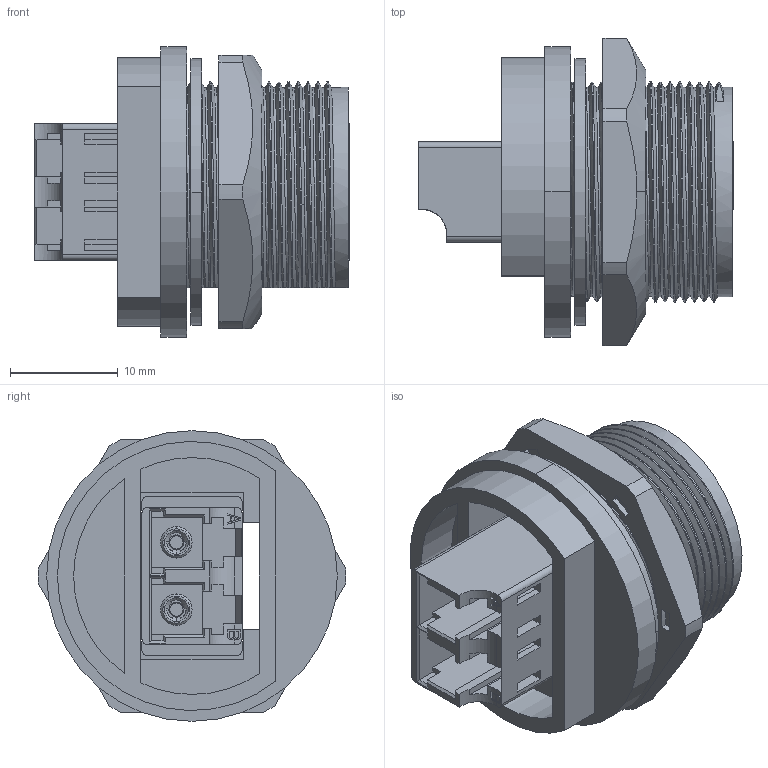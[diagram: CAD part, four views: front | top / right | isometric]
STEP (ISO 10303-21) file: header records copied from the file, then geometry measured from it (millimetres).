
FILE_DESCRIPTION(/* description */ (''),/* implementation_level */ '2;1');
FILE_NAME(/* name */ 'E13FDDI-TF-LC.stp',/* time_stamp */ '2023-03-29T11:25:06+08:00',/* author */ (''),/* organization */ (''),/* preprocessor_version */ 'ST-DEVELOPER v16.7',/* originating_system */ 'SIEMENS PLM Software NX 1847',/* authorisation */ '');
FILE_SCHEMA (('AUTOMOTIVE_DESIGN { 1 0 10303 214 3 1 1 1 }'));
Length unit declared in the file: millimetre
Products named in the file (5): E13 塑胶六角螺母; E13 座子防水垫片 ∅24.8X∅2
0.6-1; 光纤端子插头; E13光纤螺纹式板后座子; E13GX-TF-LC
Assembly tree (4 placements, depth 2):
  E13GX-TF-LC
    E13光纤螺纹式板后座子
    光纤端子插头
    E13 座子防水垫片 ∅24.8X∅2
0.6-1
    E13 塑胶六角螺母
Bounding box: 29.2 x 28.6 x 27 mm (x, y, z)
Volume: 6393.8 mm3; surface area: 8915.7 mm2
Topology: 4 solids, 6 shells, 804 faces, 2224 edges, 1454 vertices
Faces by surface type: plane 551, cylinder 166, bspline 63, cone 24
Entity records: 43691 total; most frequent: CARTESIAN_POINT 23355, ORIENTED_EDGE 4448, DIRECTION 3836, EDGE_CURVE 2224, LINE 1592, VECTOR 1592, VERTEX_POINT 1454, AXIS2_PLACEMENT_3D 1122
